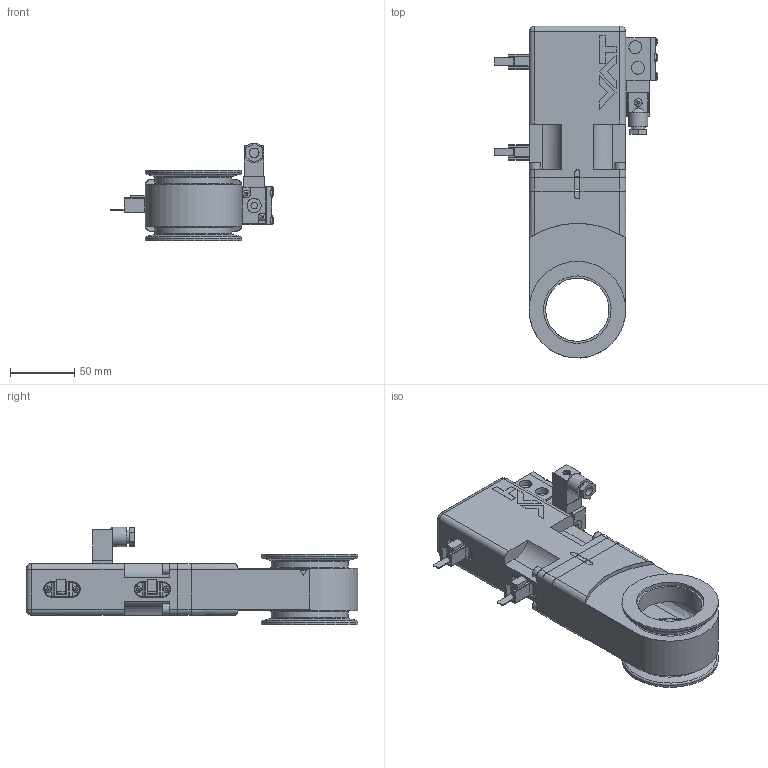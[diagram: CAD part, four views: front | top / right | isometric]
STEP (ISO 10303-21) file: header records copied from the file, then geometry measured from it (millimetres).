
FILE_DESCRIPTION((''),'2;1');
FILE_NAME('n:\work\wid\95082.stp','2005-06-23T17:41:01',('User'),( 'SDRC'),'I-DEAS Master Series 9','UNIX','Yes');
FILE_SCHEMA(('CONFIG_CONTROL_DESIGN'));
Length unit declared in the file: millimetre
Assembly tree (31 placements, depth 0):
Bounding box: 127.07 x 257.54 x 75.69 mm (x, y, z)
Volume: 485746.4 mm3; surface area: 153096.5 mm2
Topology: 43 solids, 43 shells, 1137 faces, 2780 edges, 1806 vertices
Faces by surface type: bspline 1137
Entity records: 25505 total; most frequent: CARTESIAN_POINT 11869, ORIENTED_EDGE 3460, EDGE_CURVE 1730, VERTEX_POINT 1130, EDGE_LOOP 866, QUASI_UNIFORM_CURVE 805, FACE_OUTER_BOUND 714, ADVANCED_FACE 714
